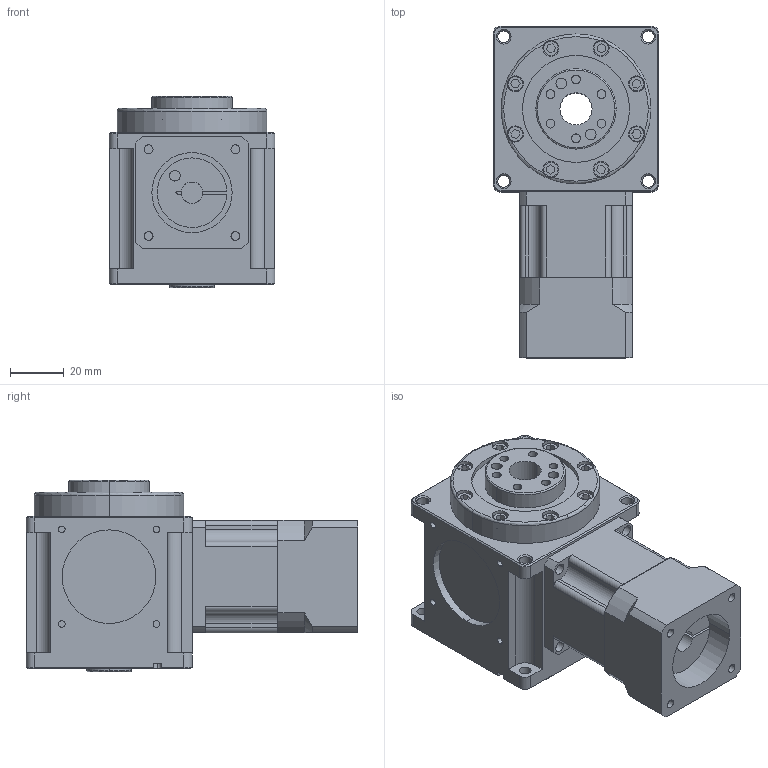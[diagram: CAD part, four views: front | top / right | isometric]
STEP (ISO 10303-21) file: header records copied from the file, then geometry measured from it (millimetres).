
FILE_DESCRIPTION (( 'STEP AP214' ), '1' );
FILE_NAME ('CCW062A-L1(6-20)-RF 8-30-46-M4.STEP', '2025-06-02T07:53:07', ( '微软用户' ), ( '微软中国' ), 'SwSTEP 2.0', 'SolidWorks 2024', '' );
FILE_SCHEMA (( 'AUTOMOTIVE_DESIGN' ));
Length unit declared in the file: millimetre
Products named in the file (3): 042-L1齿圈; CCW062A-002-RF箱体; CCW062A-L1(6-20)-RF 8-30-46-M4
Assembly tree (2 placements, depth 2):
  CCW062A-L1(6-20)-RF 8-30-46-M4
    CCW062A-002-RF箱体
    042-L1齿圈
Bounding box: 62 x 124 x 71.5 mm (x, y, z)
Volume: 295472 mm3; surface area: 49098.4 mm2
Topology: 2 solids, 2 shells, 433 faces, 1039 edges, 666 vertices
Faces by surface type: plane 200, cylinder 181, cone 44, torus 8
Entity records: 12871 total; most frequent: DIRECTION 2325, CARTESIAN_POINT 2299, ORIENTED_EDGE 2078, EDGE_CURVE 1039, AXIS2_PLACEMENT_3D 876, VERTEX_POINT 666, VECTOR 573, LINE 573
